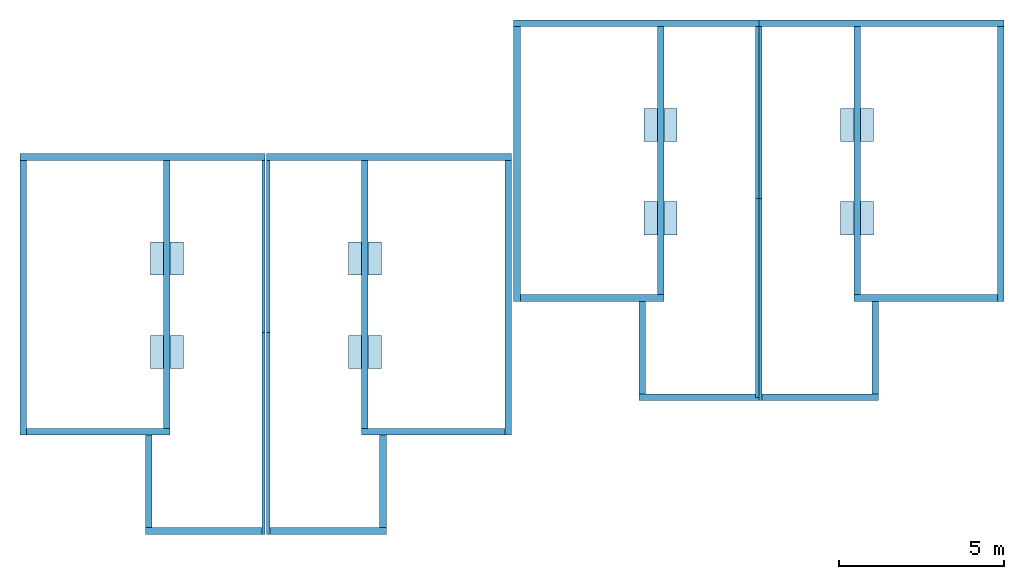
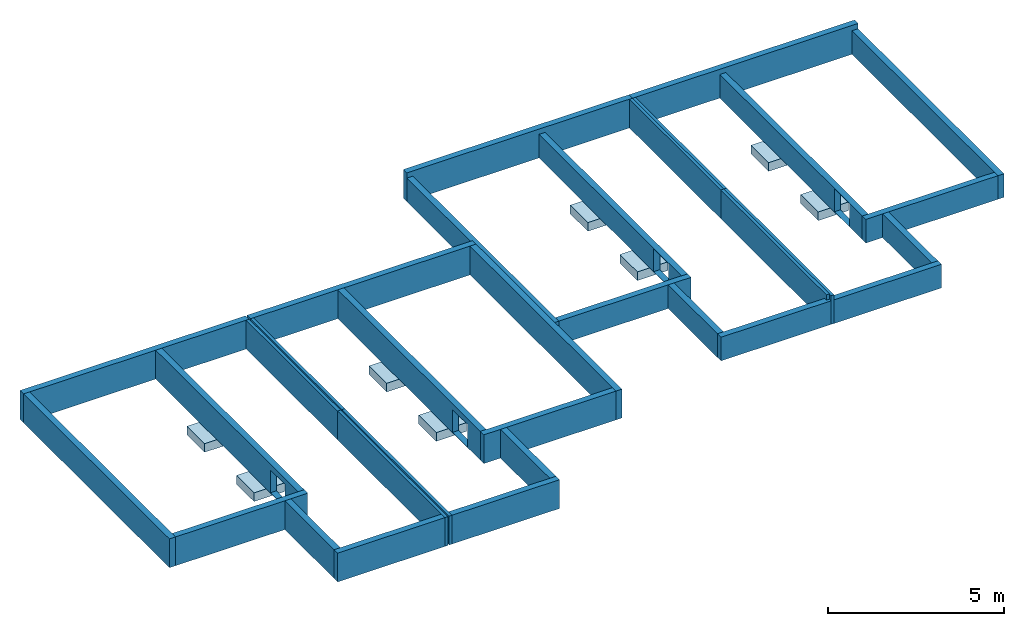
# One storey: 32 walls, 8 slabs, 4 openings.
"""IFC2X3 building model written with IfcOpenShell, lengths in metres."""

import ifcopenshell
import ifcopenshell.guid

model = None  # the IFC model being written
_history = None  # IfcOwnerHistory: only IFC2X3 demands one
_inside = {}  # id of a spatial element -> (the spatial element, [elements in it])
_under = {}  # id of a project, library or spatial element -> (it, [spatial elements below it])
_declared = {}  # id of a project -> (the project, [libraries it declares])
_typed = {}  # id of a type object -> (the type object, [elements of that type])
_made_of = {}  # id of a material, layer set ... -> (it, [elements and type objects made of it])


def new_model(schema):
    """Start an empty IFC model of exactly this schema.

    Asked for "IFC4X3", IfcOpenShell would pick the latest addendum, in which some entities
    have other attributes; the version numbers below select the first issue.
    IFC2X3 requires an IfcOwnerHistory on every rooted entity: one is made here for all.
    """
    global model, _history
    if schema == "IFC4X3":
        model = ifcopenshell.file(schema_version=(4, 3, 0, 0))
    else:
        model = ifcopenshell.file(schema=schema)
    _inside.clear()
    _under.clear()
    _declared.clear()
    _typed.clear()
    _made_of.clear()
    _history = None
    if model.schema == "IFC2X3":
        org = make("IfcOrganization", Name="unknown")
        user = make(
            "IfcPersonAndOrganization",
            ThePerson=make("IfcPerson", FamilyName="unknown"),
            TheOrganization=org,
        )
        app = make(
            "IfcApplication",
            ApplicationDeveloper=org,
            Version="unknown",
            ApplicationFullName="unknown",
            ApplicationIdentifier="unknown",
        )
        _history = make(
            "IfcOwnerHistory",
            OwningUser=user,
            OwningApplication=app,
            ChangeAction="ADDED",
            CreationDate=0,
        )
    return model


def make(cls, **values):
    """One entity of the class cls with the attributes given. An attribute that is None is left unset."""
    return model.create_entity(
        cls, **{name: value for name, value in values.items() if value is not None}
    )


def entity(cls, *values):
    """Any entity or typed value of the class cls, its attributes in the order of the schema. None: left unset."""
    e = model.create_entity(cls)
    for i, value in enumerate(values):
        if value is not None:
            e[i] = value
    return e


def rooted(cls, **values):
    """An entity with a GlobalId (a new one), such as an element, a storey or a relation."""
    return make(cls, GlobalId=ifcopenshell.guid.new(), OwnerHistory=_history, **values)


def si_unit(unit_type, name, prefix=None):
    """IfcSIUnit, for example si_unit("LENGTHUNIT", "METRE", prefix="MILLI")."""
    return make("IfcSIUnit", UnitType=unit_type, Prefix=prefix, Name=name)


def converted_unit(unit_type, name, factor, base, dimensions=None, offset=None):
    """IfcConversionBasedUnit, such as the inch: factor (a typed value) times the base unit."""
    return make(
        "IfcConversionBasedUnit"
        if offset is None
        else "IfcConversionBasedUnitWithOffset",
        ConversionOffset=offset,
        Dimensions=None
        if dimensions is None
        else entity("IfcDimensionalExponents", *dimensions),
        UnitType=unit_type,
        Name=name,
        ConversionFactor=make(
            "IfcMeasureWithUnit", ValueComponent=factor, UnitComponent=base
        ),
    )


def derived_unit(unit_type, elements):
    """IfcDerivedUnit: a product of units, each with its exponent."""
    return make(
        "IfcDerivedUnit",
        Elements=[
            make("IfcDerivedUnitElement", Unit=unit, Exponent=power)
            for unit, power in elements
        ],
        UnitType=unit_type,
    )


def assignment(units):
    """IfcUnitAssignment: the units of a project."""
    return None if units is None else make("IfcUnitAssignment", Units=units)


def point(xyz):
    """IfcCartesianPoint."""
    return None if xyz is None else make("IfcCartesianPoint", Coordinates=xyz)


def direction(xyz):
    """IfcDirection."""
    return None if xyz is None else make("IfcDirection", DirectionRatios=xyz)


def frame(location, z_axis=None, x_axis=None):
    """IfcAxis2Placement3D, a coordinate frame: its origin and axes. An axis left out is left unset."""
    return make(
        "IfcAxis2Placement3D",
        Location=point(location),
        Axis=direction(z_axis),
        RefDirection=direction(x_axis),
    )


def frame_2d(location, x_axis=None):
    """IfcAxis2Placement2D, a coordinate frame in the plane: its origin and x axis."""
    return make(
        "IfcAxis2Placement2D", Location=point(location), RefDirection=direction(x_axis)
    )


def origin():
    """The frame at (0, 0, 0) with its axes left unset."""
    return frame((0.0, 0.0, 0.0))


def place(relative_to, where):
    """IfcLocalPlacement: puts the frame where relative to a parent placement (None: the world)."""
    return make(
        "IfcLocalPlacement", PlacementRelTo=relative_to, RelativePlacement=where
    )


def context(
    kind, dimensions, precision=None, world=None, true_north=None, identifier=None
):
    """IfcGeometricRepresentationContext, for example the 3D "Model" context."""
    return make(
        "IfcGeometricRepresentationContext",
        ContextIdentifier=identifier,
        ContextType=kind,
        CoordinateSpaceDimension=dimensions,
        Precision=precision,
        WorldCoordinateSystem=world,
        TrueNorth=true_north,
    )


def subcontext(parent, identifier, kind, view, scale=None):
    """IfcGeometricRepresentationSubContext, for example "Body" below "Model"."""
    return make(
        "IfcGeometricRepresentationSubContext",
        ContextIdentifier=identifier,
        ContextType=kind,
        ParentContext=parent,
        TargetScale=scale,
        TargetView=view,
    )


def project(units=None, contexts=None):
    """IfcProject with its units and contexts."""
    return rooted(
        "IfcProject",
        Name="project",
        RepresentationContexts=contexts,
        UnitsInContext=assignment(units),
    )


def spatial(cls, under=None, at=None, **own):
    """A site, building, storey or space (cls), placed at a placement, below another one or the project."""
    s = rooted(cls, ObjectPlacement=at, **own)
    if under is not None:
        _under.setdefault(under.id(), (under, []))[1].append(s)
    return s


def polyline(points):
    """IfcPolyline through the points."""
    return make("IfcPolyline", Points=[point(p) for p in points])


def profile(cls, at=None, kind="AREA", **sizes):
    """A parametric profile (cls). Its sizes go by their IFC names, for example OverallWidth=200.0."""
    return make(cls, ProfileType=kind, Position=at, **sizes)


def rectangle(**sizes):
    """IfcRectangleProfileDef."""
    return profile("IfcRectangleProfileDef", **sizes)


def extrude(swept, where, along, depth):
    """IfcExtrudedAreaSolid: the profile swept, set in the frame where, extruded along a direction by depth."""
    return make(
        "IfcExtrudedAreaSolid",
        SweptArea=swept,
        Position=where,
        ExtrudedDirection=direction(along),
        Depth=depth,
    )


def clip(a, b, op="DIFFERENCE"):
    """IfcBooleanClippingResult: the solid a cut by the half space b."""
    return make(
        "IfcBooleanClippingResult", Operator=op, FirstOperand=a, SecondOperand=b
    )


def bounded_halfspace(plane, agree, where, boundary):
    """IfcPolygonalBoundedHalfSpace: a half space limited to a polygon's prism."""
    return make(
        "IfcPolygonalBoundedHalfSpace",
        BaseSurface=make("IfcPlane", Position=plane),
        AgreementFlag=agree,
        Position=where,
        PolygonalBoundary=boundary,
    )


def shape(context_of_items, identifier, shape_type, items):
    """IfcShapeRepresentation: the items that make up one representation, for example the "Body"."""
    return make(
        "IfcShapeRepresentation",
        ContextOfItems=context_of_items,
        RepresentationIdentifier=identifier,
        RepresentationType=shape_type,
        Items=items,
    )


def material(Name=None, Category=None):
    """IfcMaterial."""
    return make("IfcMaterial", Name=Name, Category=Category)


def layer(
    of_material, thickness, ventilated=None, Name=None, Category=None, Priority=None
):
    """IfcMaterialLayer: one layer of a wall or slab, of a material (None: an air gap)."""
    return make(
        "IfcMaterialLayer",
        Material=of_material,
        LayerThickness=thickness,
        IsVentilated=ventilated,
        Name=Name,
        Category=Category,
        Priority=Priority,
    )


def layer_set(layers, Name=None):
    """IfcMaterialLayerSet."""
    return make("IfcMaterialLayerSet", MaterialLayers=layers, LayerSetName=Name)


def layer_usage(for_layer_set, set_direction, sense, offset, extent=None):
    """IfcMaterialLayerSetUsage: how a layer set lies in its element."""
    return make(
        "IfcMaterialLayerSetUsage",
        ForLayerSet=for_layer_set,
        LayerSetDirection=set_direction,
        DirectionSense=sense,
        OffsetFromReferenceLine=offset,
        ReferenceExtent=extent,
    )


def made_of(thing, what):
    """Note that an element or type object is made of a material, layer set ...; save() writes the relation."""
    if what is not None:
        _made_of.setdefault(what.id(), (what, []))[1].append(thing)
    return thing


def type_object(cls, material=None, **own):
    """A type object (cls), such as IfcWallType, which elements share."""
    return made_of(rooted(cls, **own), material)


def element(
    cls,
    number,
    at=None,
    inside=None,
    cuts=None,
    type_object=None,
    material=None,
    context=None,
    identifier="Body",
    shape_type=None,
    held_by="IfcProductDefinitionShape",
    body=None,
    shapes=None,
    **own,
):
    """One element of the class cls, such as IfcWall. Its Tag is "e" and its number.

    at: its placement. inside: the storey or other place that contains it. cuts: it is an
    opening in that element (IfcRelVoidsElement). A single representation is given by context,
    identifier, shape_type and body (its items); several are given by shapes. held_by: the class
    of the entity that holds the representations. save() writes the other relations.
    """
    e = rooted(cls, Tag="e%d" % number, ObjectPlacement=at, **own)
    if body is not None:
        shapes = [shape(context, identifier, shape_type, body)]
    if shapes is not None:
        e.Representation = make(held_by, Representations=shapes)
    if inside is not None:
        _inside.setdefault(inside.id(), (inside, []))[1].append(e)
    if cuts is not None:
        rooted(
            "IfcRelVoidsElement", RelatingBuildingElement=cuts, RelatedOpeningElement=e
        )
    if type_object is not None:
        _typed.setdefault(type_object.id(), (type_object, []))[1].append(e)
    return made_of(e, material)


def aggregate(whole, parts):
    """IfcRelAggregates: a whole, such as a stair, and the parts it consists of."""
    return rooted("IfcRelAggregates", RelatingObject=whole, RelatedObjects=parts)


def save(model, path):
    """Write the relations noted so far, then the file.

    IfcRelAggregates (storeys below a building ...), IfcRelContainedInSpatialStructure (elements
    in a storey), IfcRelDefinesByType, IfcRelAssociatesMaterial and IfcRelDeclares: one each for
    every whole, place, type object, material and project.
    """
    for whole, parts in _under.values():
        aggregate(whole, parts)
    for where, things in _inside.values():
        rooted(
            "IfcRelContainedInSpatialStructure",
            RelatedElements=things,
            RelatingStructure=where,
        )
    for kind, things in _typed.values():
        rooted("IfcRelDefinesByType", RelatedObjects=things, RelatingType=kind)
    for what, things in _made_of.values():
        rooted("IfcRelAssociatesMaterial", RelatedObjects=things, RelatingMaterial=what)
    for by, libraries in _declared.values():
        rooted("IfcRelDeclares", RelatingContext=by, RelatedDefinitions=libraries)
    model.write(path)


model = new_model("IFC2X3")

# Units and contexts
model_context = context("Model", 3, precision=1e-05, world=origin(), true_north=direction((6.12303176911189e-17, 1.0)))
context_of_model = context(None, 3, precision=1e-05, world=origin(), true_north=direction((6.12303176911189e-17, 1.0)))
body_context = subcontext(model_context, "Body", "Model", "MODEL_VIEW")
ifc_project = project(units=[si_unit("LENGTHUNIT", "METRE"), si_unit("AREAUNIT", "SQUARE_METRE"), si_unit("VOLUMEUNIT", "CUBIC_METRE"), converted_unit("PLANEANGLEUNIT", "DEGREE", entity("IfcRatioMeasure", 0.0174532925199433), si_unit("PLANEANGLEUNIT", "RADIAN"), dimensions=[0, 0, 0, 0, 0, 0, 0]), si_unit("MASSUNIT", "GRAM", prefix="KILO"), si_unit("TIMEUNIT", "SECOND"), si_unit("FREQUENCYUNIT", "HERTZ"), si_unit("THERMODYNAMICTEMPERATUREUNIT", "DEGREE_CELSIUS"), derived_unit("THERMALTRANSMITTANCEUNIT", [(si_unit("MASSUNIT", "GRAM", prefix="KILO"), 1), (si_unit("THERMODYNAMICTEMPERATUREUNIT", "KELVIN"), -1), (si_unit("TIMEUNIT", "SECOND"), -3)]), derived_unit("VOLUMETRICFLOWRATEUNIT", [(si_unit("LENGTHUNIT", "METRE"), 3), (si_unit("TIMEUNIT", "SECOND"), -1)]), si_unit("ELECTRICCURRENTUNIT", "AMPERE"), si_unit("ELECTRICVOLTAGEUNIT", "VOLT"), si_unit("POWERUNIT", "WATT"), si_unit("FORCEUNIT", "NEWTON", prefix="KILO"), si_unit("ILLUMINANCEUNIT", "LUX"), si_unit("LUMINOUSFLUXUNIT", "LUMEN"), si_unit("LUMINOUSINTENSITYUNIT", "CANDELA"), si_unit("PRESSUREUNIT", "PASCAL")], contexts=[model_context, context_of_model])

# Site, building, storey
site_placement = place(None, origin())
site = spatial("IfcSite", under=ifc_project, at=site_placement, Name="Surface", CompositionType="ELEMENT")
building_placement = place(site_placement, origin())
building = spatial("IfcBuilding", under=site, at=building_placement, CompositionType="ELEMENT")
storey_placement = place(building_placement, frame((0.0, 0.0, -0.8)))
storey = spatial("IfcBuildingStorey", under=building, at=storey_placement, Name="vs", CompositionType="ELEMENT", Elevation=-0.8)

# Slabs
ifc_material_1 = material(Name="Béton - Béton coulé sur place")
slab_1_placement = place(storey_placement, origin())
element("IfcSlab", 1, at=slab_1_placement, inside=storey, material=ifc_material_1, Name="Base rectangulaire:1.00 x 1.00 x .30", ObjectType="Base rectangulaire:1.00 x 1.00 x .30", PredefinedType="FLOOR", context=body_context, shape_type="SweptSolid", body=[
    extrude(rectangle(XDim=0.999999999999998, YDim=0.999999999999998, at=frame_2d((8.68749516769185e-15, -8.68749516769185e-15), x_axis=(1.0, 0.0))), frame((86.6967857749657, 89.2775239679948, -0.5), z_axis=(0.0, 0.0, 1.0), x_axis=(-1.0, 0.0, 0.0)), (0.0, 0.0, 1.0), 0.3),
    extrude(rectangle(XDim=0.999999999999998, YDim=0.999999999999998, at=frame_2d((8.68749516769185e-15, -8.68749516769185e-15), x_axis=(1.0, 0.0))), frame((86.6967857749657, 89.2775239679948, -0.5), z_axis=(0.0, 0.0, 1.0), x_axis=(-1.0, 0.0, 0.0)), (0.0, 0.0, 1.0), 0.3),
])
slab_2_placement = place(storey_placement, origin())
element("IfcSlab", 2, at=slab_2_placement, inside=storey, material=ifc_material_1, Name="Base rectangulaire:1.00 x 1.00 x .30", ObjectType="Base rectangulaire:1.00 x 1.00 x .30", PredefinedType="FLOOR", context=body_context, shape_type="SweptSolid", body=[
    extrude(rectangle(XDim=0.999999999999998, YDim=0.999999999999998, at=frame_2d((8.68749516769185e-15, -8.68749516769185e-15), x_axis=(1.0, 0.0))), frame((71.8246263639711, 85.2377566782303, -0.5), z_axis=(0.0, 0.0, 1.0), x_axis=(-1.0, 0.0, 0.0)), (0.0, 0.0, 1.0), 0.3),
    extrude(rectangle(XDim=0.999999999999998, YDim=0.999999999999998, at=frame_2d((8.68749516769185e-15, -8.68749516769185e-15), x_axis=(1.0, 0.0))), frame((71.8246263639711, 85.2377566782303, -0.5), z_axis=(0.0, 0.0, 1.0), x_axis=(-1.0, 0.0, 0.0)), (0.0, 0.0, 1.0), 0.3),
])
slab_3_placement = place(storey_placement, origin())
element("IfcSlab", 3, at=slab_3_placement, inside=storey, material=ifc_material_1, Name="Base rectangulaire:1.00 x 1.00 x .30", ObjectType="Base rectangulaire:1.00 x 1.00 x .30", PredefinedType="FLOOR", context=body_context, shape_type="SweptSolid", body=[
    extrude(rectangle(XDim=0.999999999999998, YDim=0.999999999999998, at=frame_2d((-8.68749516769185e-15, 2.6853519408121e-13), x_axis=(1.0, 0.0))), frame((65.8446263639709, 85.2377566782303, -0.5), z_axis=(0.0, 0.0, 1.0), x_axis=(0.0, -1.0, 0.0)), (0.0, 0.0, 1.0), 0.3),
    extrude(rectangle(XDim=0.999999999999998, YDim=0.999999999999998, at=frame_2d((-8.68749516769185e-15, 2.6853519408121e-13), x_axis=(1.0, 0.0))), frame((65.8446263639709, 85.2377566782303, -0.5), z_axis=(0.0, 0.0, 1.0), x_axis=(0.0, -1.0, 0.0)), (0.0, 0.0, 1.0), 0.3),
])
slab_4_placement = place(storey_placement, origin())
element("IfcSlab", 4, at=slab_4_placement, inside=storey, material=ifc_material_1, Name="Base rectangulaire:1.00 x 1.00 x .30", ObjectType="Base rectangulaire:1.00 x 1.00 x .30", PredefinedType="FLOOR", context=body_context, shape_type="SweptSolid", body=[
    extrude(rectangle(XDim=0.999999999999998, YDim=0.999999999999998, at=frame_2d((8.68749516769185e-15, 8.68749516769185e-15), x_axis=(1.0, 0.0))), frame((86.6967857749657, 86.4575239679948, -0.5), z_axis=(0.0, 0.0, 1.0), x_axis=(-1.0, 0.0, 0.0)), (0.0, 0.0, 1.0), 0.3),
    extrude(rectangle(XDim=0.999999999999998, YDim=0.999999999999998, at=frame_2d((8.68749516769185e-15, 8.68749516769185e-15), x_axis=(1.0, 0.0))), frame((86.6967857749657, 86.4575239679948, -0.5), z_axis=(0.0, 0.0, 1.0), x_axis=(-1.0, 0.0, 0.0)), (0.0, 0.0, 1.0), 0.3),
])
slab_5_placement = place(storey_placement, origin())
element("IfcSlab", 5, at=slab_5_placement, inside=storey, material=ifc_material_1, Name="Base rectangulaire:1.00 x 1.00 x .30", ObjectType="Base rectangulaire:1.00 x 1.00 x .30", PredefinedType="FLOOR", context=body_context, shape_type="SweptSolid", body=[
    extrude(rectangle(XDim=0.999999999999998, YDim=0.999999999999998, at=frame_2d((8.68749516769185e-15, -8.68749516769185e-15), x_axis=(1.0, 0.0))), frame((71.8246263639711, 82.4177566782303, -0.5), z_axis=(0.0, 0.0, 1.0), x_axis=(-1.0, 0.0, 0.0)), (0.0, 0.0, 1.0), 0.3),
    extrude(rectangle(XDim=0.999999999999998, YDim=0.999999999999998, at=frame_2d((8.68749516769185e-15, -8.68749516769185e-15), x_axis=(1.0, 0.0))), frame((71.8246263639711, 82.4177566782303, -0.5), z_axis=(0.0, 0.0, 1.0), x_axis=(-1.0, 0.0, 0.0)), (0.0, 0.0, 1.0), 0.3),
])
slab_6_placement = place(storey_placement, origin())
element("IfcSlab", 6, at=slab_6_placement, inside=storey, material=ifc_material_1, Name="Base rectangulaire:1.00 x 1.00 x .30", ObjectType="Base rectangulaire:1.00 x 1.00 x .30", PredefinedType="FLOOR", context=body_context, shape_type="SweptSolid", body=[
    extrude(rectangle(XDim=0.999999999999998, YDim=0.999999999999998, at=frame_2d((8.68749516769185e-15, 2.6853519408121e-13), x_axis=(1.0, 0.0))), frame((65.8446263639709, 82.4177566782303, -0.5), z_axis=(0.0, 0.0, 1.0), x_axis=(0.0, -1.0, 0.0)), (0.0, 0.0, 1.0), 0.3),
    extrude(rectangle(XDim=0.999999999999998, YDim=0.999999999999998, at=frame_2d((8.68749516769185e-15, 2.6853519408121e-13), x_axis=(1.0, 0.0))), frame((65.8446263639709, 82.4177566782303, -0.5), z_axis=(0.0, 0.0, 1.0), x_axis=(0.0, -1.0, 0.0)), (0.0, 0.0, 1.0), 0.3),
])
slab_7_placement = place(storey_placement, origin())
element("IfcSlab", 7, at=slab_7_placement, inside=storey, material=ifc_material_1, Name="Base rectangulaire:1.00 x 1.00 x .30", ObjectType="Base rectangulaire:1.00 x 1.00 x .30", PredefinedType="FLOOR", context=body_context, shape_type="SweptSolid", body=[
    extrude(rectangle(XDim=0.999999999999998, YDim=0.999999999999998, at=frame_2d((8.68749516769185e-15, 8.68749516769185e-15), x_axis=(1.0, 0.0))), frame((80.7610189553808, 89.2775239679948, -0.5), z_axis=(0.0, 0.0, 1.0), x_axis=(0.0, -1.0, 0.0)), (0.0, 0.0, 1.0), 0.3),
    extrude(rectangle(XDim=0.999999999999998, YDim=0.999999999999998, at=frame_2d((8.68749516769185e-15, 8.68749516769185e-15), x_axis=(1.0, 0.0))), frame((80.7610189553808, 89.2775239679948, -0.5), z_axis=(0.0, 0.0, 1.0), x_axis=(0.0, -1.0, 0.0)), (0.0, 0.0, 1.0), 0.3),
])
slab_8_placement = place(storey_placement, origin())
element("IfcSlab", 8, at=slab_8_placement, inside=storey, material=ifc_material_1, Name="Base rectangulaire:1.00 x 1.00 x .30", ObjectType="Base rectangulaire:1.00 x 1.00 x .30", PredefinedType="FLOOR", context=body_context, shape_type="SweptSolid", body=[
    extrude(rectangle(XDim=0.999999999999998, YDim=0.999999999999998, at=frame_2d((8.68749516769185e-15, 8.68749516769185e-15), x_axis=(1.0, 0.0))), frame((80.7610189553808, 86.4575239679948, -0.5), z_axis=(0.0, 0.0, 1.0), x_axis=(0.0, -1.0, 0.0)), (0.0, 0.0, 1.0), 0.3),
    extrude(rectangle(XDim=0.999999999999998, YDim=0.999999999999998, at=frame_2d((8.68749516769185e-15, 8.68749516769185e-15), x_axis=(1.0, 0.0))), frame((80.7610189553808, 86.4575239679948, -0.5), z_axis=(0.0, 0.0, 1.0), x_axis=(0.0, -1.0, 0.0)), (0.0, 0.0, 1.0), 0.3),
])

# Walls
ifc_material_2 = material(Name="Parpaing")
ifc_layer_1 = layer(ifc_material_2, 0.2)
ifc_layer_set_1 = layer_set([ifc_layer_1], Name="Mur de base:Ext. Parpaing 20")
ifc_layer_usage_1 = layer_usage(ifc_layer_set_1, "AXIS2", "NEGATIVE", 0.1)
wall_type_1 = type_object("IfcWallType", Name="Mur de base:Ext. Parpaing 20", PredefinedType="STANDARD", material=ifc_layer_set_1)
wall_1_placement = place(storey_placement, frame((83.7267857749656, 92.3475239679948, -0.2)))
element("IfcWallStandardCase", 9, at=wall_1_placement, inside=storey, type_object=wall_type_1, material=ifc_layer_usage_1, Name="Mur de base:Ext. Parpaing 20", ObjectType="Mur de base:Ext. Parpaing 20", context=body_context, shape_type="SweptSolid", body=[
    extrude(rectangle(XDim=7.40826294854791, YDim=0.199999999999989, at=frame_2d((3.70413147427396, 3.51801920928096e-15), x_axis=(-1.0, 0.0))), origin(), (0.0, 0.0, 1.0), 1.0),
])
ifc_layer_usage_2 = layer_usage(ifc_layer_set_1, "AXIS2", "NEGATIVE", 0.1)
wall_2_placement = place(storey_placement, frame((91.0350487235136, 92.2475239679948, -0.2), z_axis=(0.0, 0.0, 1.0), x_axis=(0.0, -1.0, 0.0)))
element("IfcWallStandardCase", 10, at=wall_2_placement, inside=storey, type_object=wall_type_1, material=ifc_layer_usage_2, Name="Mur de base:Ext. Parpaing 20", ObjectType="Mur de base:Ext. Parpaing 20", context=body_context, shape_type="SweptSolid", body=[
    extrude(rectangle(XDim=8.29999999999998, YDim=0.199999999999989, at=frame_2d((4.14999999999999, 0.0), x_axis=(-1.0, 0.0))), origin(), (0.0, 0.0, 1.0), 0.82),
])
ifc_layer_usage_3 = layer_usage(ifc_layer_set_1, "AXIS2", "NEGATIVE", 0.1)
wall_3_placement = place(storey_placement, frame((90.9350487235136, 84.0475239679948, -0.2), z_axis=(0.0, 0.0, 1.0), x_axis=(-1.0, 0.0, 0.0)))
element("IfcWallStandardCase", 11, at=wall_3_placement, inside=storey, type_object=wall_type_1, material=ifc_layer_usage_3, Name="Mur de base:Ext. Parpaing 20", ObjectType="Mur de base:Ext. Parpaing 20", context=body_context, shape_type="Clipping", body=[
    clip(extrude(rectangle(XDim=4.33826294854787, YDim=0.199999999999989, at=frame_2d((2.16913147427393, 3.19883008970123e-15), x_axis=(-1.0, 0.0))), origin(), (0.0, 0.0, 1.0), 0.82), bounded_halfspace(frame((3.78826294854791, -0.0999999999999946, 0.82), z_axis=(0.0, 0.0, -1.0), x_axis=(-1.0, 0.0, 0.0)), True, frame((3.78826294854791, -0.0999999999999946, 0.82)), polyline([(0.0, 0.0), (0.349999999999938, 0.0), (0.549999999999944, 0.0), (0.549999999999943, 0.200000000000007), (0.0, 0.200000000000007), (0.0, 0.0)]))),
])
ifc_layer_usage_4 = layer_usage(ifc_layer_set_1, "AXIS2", "NEGATIVE", 0.1)
wall_4_placement = place(storey_placement, frame((83.8267857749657, 81.0475239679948, -0.2)))
element("IfcWallStandardCase", 12, at=wall_4_placement, inside=storey, type_object=wall_type_1, material=ifc_layer_usage_4, Name="Mur de base:Ext. Parpaing 20", ObjectType="Mur de base:Ext. Parpaing 20", context=body_context, shape_type="SweptSolid", body=[
    extrude(rectangle(XDim=3.51999999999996, YDim=0.199999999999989, at=frame_2d((1.75999999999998, 0.0), x_axis=(-1.0, 0.0))), origin(), (0.0, 0.0, 1.0), 0.82),
])
ifc_layer_usage_5 = layer_usage(ifc_layer_set_1, "AXIS2", "NEGATIVE", 0.1)
wall_5_placement = place(storey_placement, frame((87.2467857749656, 81.1475239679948, -0.2), z_axis=(0.0, 0.0, 1.0), x_axis=(0.0, 1.0, 0.0)))
element("IfcWallStandardCase", 13, at=wall_5_placement, inside=storey, type_object=wall_type_1, material=ifc_layer_usage_5, Name="Mur de base:Ext. Parpaing 20", ObjectType="Mur de base:Ext. Parpaing 20", context=body_context, shape_type="SweptSolid", body=[
    extrude(rectangle(XDim=2.80000000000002, YDim=0.199999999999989, at=frame_2d((1.40000000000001, 0.0), x_axis=(-1.0, 0.0))), origin(), (0.0, 0.0, 1.0), 0.82),
])

# Wall, opening
ifc_layer_usage_6 = layer_usage(ifc_layer_set_1, "AXIS2", "NEGATIVE", 0.1)
wall_6_placement = place(storey_placement, frame((86.6967857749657, 84.1475239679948, -0.2), z_axis=(0.0, 0.0, 1.0), x_axis=(0.0, 1.0, 0.0)))
wall_6 = element("IfcWallStandardCase", 14, at=wall_6_placement, inside=storey, type_object=wall_type_1, material=ifc_layer_usage_6, Name="Mur de base:Ext. Parpaing 20", ObjectType="Mur de base:Ext. Parpaing 20", context=body_context, shape_type="Clipping", body=[
    clip(extrude(rectangle(XDim=8.09999999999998, YDim=0.199999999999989, at=frame_2d((4.04999999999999, 0.0), x_axis=(-1.0, 0.0))), origin(), (0.0, 0.0, 1.0), 0.82), bounded_halfspace(frame((0.0, -0.100000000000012, 0.82), z_axis=(0.0, 0.0, -1.0), x_axis=(0.0, -1.0, 0.0)), True, frame((0.0, -0.100000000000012, 0.82)), polyline([(0.0, 0.0), (8.07999999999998, 0.0), (8.07999999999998, 0.200000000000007), (0.0, 0.200000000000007), (0.0, 0.0)]))),
])
opening_1_placement = place(wall_6_placement, origin())
element("IfcOpeningElement", 15, at=opening_1_placement, cuts=wall_6, Name="Mur de base:Ext. Parpaing 20", ObjectType="Opening", context=body_context, shape_type="SweptSolid", body=[
    extrude(rectangle(XDim=0.793145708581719, YDim=0.840999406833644, at=frame_2d((0.0, -8.65973959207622e-15), x_axis=(1.0, 0.0))), frame((1.15884276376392, -0.0999999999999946, 0.403427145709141), z_axis=(0.0, 1.0, 0.0), x_axis=(0.0, 0.0, -1.0)), (0.0, 0.0, 1.0), 0.199999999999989),
])

# Walls
ifc_layer_usage_7 = layer_usage(ifc_layer_set_1, "AXIS2", "NEGATIVE", 0.1)
wall_7_placement = place(storey_placement, frame((68.8546263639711, 88.3077566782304, -0.2)))
element("IfcWallStandardCase", 16, at=wall_7_placement, inside=storey, type_object=wall_type_1, material=ifc_layer_usage_7, Name="Mur de base:Ext. Parpaing 20", ObjectType="Mur de base:Ext. Parpaing 20", context=body_context, shape_type="SweptSolid", body=[
    extrude(rectangle(XDim=7.40826294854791, YDim=0.199999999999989, at=frame_2d((3.70413147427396, 3.51801920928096e-15), x_axis=(-1.0, 0.0))), origin(), (0.0, 0.0, 1.0), 1.0),
])
ifc_layer_usage_8 = layer_usage(ifc_layer_set_1, "AXIS2", "NEGATIVE", 0.1)
wall_8_placement = place(storey_placement, frame((76.162889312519, 88.2077566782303, -0.2), z_axis=(0.0, 0.0, 1.0), x_axis=(0.0, -1.0, 0.0)))
element("IfcWallStandardCase", 17, at=wall_8_placement, inside=storey, type_object=wall_type_1, material=ifc_layer_usage_8, Name="Mur de base:Ext. Parpaing 20", ObjectType="Mur de base:Ext. Parpaing 20", context=body_context, shape_type="SweptSolid", body=[
    extrude(rectangle(XDim=8.29999999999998, YDim=0.200000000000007, at=frame_2d((4.14999999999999, 0.0), x_axis=(-1.0, 0.0))), origin(), (0.0, 0.0, 1.0), 1.0),
])
ifc_layer_usage_9 = layer_usage(ifc_layer_set_1, "AXIS2", "NEGATIVE", 0.1)
wall_9_placement = place(storey_placement, frame((76.062889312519, 80.0077566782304, -0.2), z_axis=(0.0, 0.0, 1.0), x_axis=(-1.0, 0.0, 0.0)))
element("IfcWallStandardCase", 18, at=wall_9_placement, inside=storey, type_object=wall_type_1, material=ifc_layer_usage_9, Name="Mur de base:Ext. Parpaing 20", ObjectType="Mur de base:Ext. Parpaing 20", context=body_context, shape_type="SweptSolid", body=[
    extrude(rectangle(XDim=4.33826294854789, YDim=0.199999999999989, at=frame_2d((2.16913147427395, 3.19883008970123e-15), x_axis=(-1.0, 0.0))), origin(), (0.0, 0.0, 1.0), 1.0),
])
ifc_layer_usage_10 = layer_usage(ifc_layer_set_1, "AXIS2", "NEGATIVE", 0.1)
wall_10_placement = place(storey_placement, frame((68.9546263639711, 77.0077566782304, -0.2)))
element("IfcWallStandardCase", 19, at=wall_10_placement, inside=storey, type_object=wall_type_1, material=ifc_layer_usage_10, Name="Mur de base:Ext. Parpaing 20", ObjectType="Mur de base:Ext. Parpaing 20", context=body_context, shape_type="SweptSolid", body=[
    extrude(rectangle(XDim=3.51999999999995, YDim=0.200000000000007, at=frame_2d((1.75999999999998, 0.0), x_axis=(-1.0, 0.0))), origin(), (0.0, 0.0, 1.0), 1.0),
])
ifc_layer_usage_11 = layer_usage(ifc_layer_set_1, "AXIS2", "NEGATIVE", 0.1)
wall_11_placement = place(storey_placement, frame((72.3746263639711, 77.1077566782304, -0.2), z_axis=(0.0, 0.0, 1.0), x_axis=(0.0, 1.0, 0.0)))
element("IfcWallStandardCase", 20, at=wall_11_placement, inside=storey, type_object=wall_type_1, material=ifc_layer_usage_11, Name="Mur de base:Ext. Parpaing 20", ObjectType="Mur de base:Ext. Parpaing 20", context=body_context, shape_type="SweptSolid", body=[
    extrude(rectangle(XDim=2.80000000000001, YDim=0.200000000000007, at=frame_2d((1.40000000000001, 0.0), x_axis=(-1.0, 0.0))), origin(), (0.0, 0.0, 1.0), 1.0),
])

# Wall, opening
ifc_layer_usage_12 = layer_usage(ifc_layer_set_1, "AXIS2", "NEGATIVE", 0.1)
wall_12_placement = place(storey_placement, frame((71.8246263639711, 80.1077566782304, -0.2), z_axis=(0.0, 0.0, 1.0), x_axis=(0.0, 1.0, 0.0)))
wall_12 = element("IfcWallStandardCase", 21, at=wall_12_placement, inside=storey, type_object=wall_type_1, material=ifc_layer_usage_12, Name="Mur de base:Ext. Parpaing 20", ObjectType="Mur de base:Ext. Parpaing 20", context=body_context, shape_type="SweptSolid", body=[
    extrude(rectangle(XDim=8.09999999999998, YDim=0.200000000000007, at=frame_2d((4.04999999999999, 0.0), x_axis=(-1.0, 0.0))), origin(), (0.0, 0.0, 1.0), 1.0),
])
opening_2_placement = place(wall_12_placement, origin())
element("IfcOpeningElement", 22, at=opening_2_placement, cuts=wall_12, Name="Mur de base:Ext. Parpaing 20", ObjectType="Opening", context=body_context, shape_type="SweptSolid", body=[
    extrude(rectangle(XDim=0.793145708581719, YDim=0.840999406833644, at=frame_2d((0.0, 8.65973959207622e-15), x_axis=(1.0, 0.0))), frame((1.15884276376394, -0.100000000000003, 0.403427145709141), z_axis=(0.0, 1.0, 0.0), x_axis=(0.0, 0.0, -1.0)), (0.0, 0.0, 1.0), 0.200000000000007),
])

# Walls
ifc_layer_usage_13 = layer_usage(ifc_layer_set_1, "AXIS2", "POSITIVE", -0.1)
wall_13_placement = place(storey_placement, frame((68.8146263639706, 88.3077566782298, -0.2), z_axis=(0.0, 0.0, 1.0), x_axis=(-1.0, 0.0, 0.0)))
element("IfcWallStandardCase", 23, at=wall_13_placement, inside=storey, type_object=wall_type_1, material=ifc_layer_usage_13, Name="Mur de base:Ext. Parpaing 20", ObjectType="Mur de base:Ext. Parpaing 20", context=body_context, shape_type="SweptSolid", body=[
    extrude(rectangle(XDim=7.40826294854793, YDim=0.199999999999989, at=frame_2d((3.70413147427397, -1.9220736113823e-15), x_axis=(-1.0, 0.0))), origin(), (0.0, 0.0, 1.0), 1.0),
])
ifc_layer_usage_14 = layer_usage(ifc_layer_set_1, "AXIS2", "POSITIVE", -0.1)
wall_14_placement = place(storey_placement, frame((61.5063634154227, 88.2077566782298, -0.2), z_axis=(0.0, 0.0, 1.0), x_axis=(0.0, -1.0, 0.0)))
element("IfcWallStandardCase", 24, at=wall_14_placement, inside=storey, type_object=wall_type_1, material=ifc_layer_usage_14, Name="Mur de base:Ext. Parpaing 20", ObjectType="Mur de base:Ext. Parpaing 20", context=body_context, shape_type="SweptSolid", body=[
    extrude(rectangle(XDim=8.30000000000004, YDim=0.200000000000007, at=frame_2d((4.15000000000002, 2.99760216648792e-15), x_axis=(-1.0, 0.0))), origin(), (0.0, 0.0, 1.0), 1.0),
])
ifc_layer_usage_15 = layer_usage(ifc_layer_set_1, "AXIS2", "POSITIVE", -0.1)
wall_15_placement = place(storey_placement, frame((61.6063634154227, 80.0077566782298, -0.2)))
element("IfcWallStandardCase", 25, at=wall_15_placement, inside=storey, type_object=wall_type_1, material=ifc_layer_usage_15, Name="Mur de base:Ext. Parpaing 20", ObjectType="Mur de base:Ext. Parpaing 20", context=body_context, shape_type="SweptSolid", body=[
    extrude(rectangle(XDim=4.3382629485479, YDim=0.199999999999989, at=frame_2d((2.16913147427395, -1.52655665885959e-16), x_axis=(-1.0, 0.0))), origin(), (0.0, 0.0, 1.0), 1.0),
])
ifc_layer_usage_16 = layer_usage(ifc_layer_set_1, "AXIS2", "POSITIVE", -0.1)
wall_16_placement = place(storey_placement, frame((68.7146263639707, 77.0077566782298, -0.2), z_axis=(0.0, 0.0, 1.0), x_axis=(-1.0, 0.0, 0.0)))
element("IfcWallStandardCase", 26, at=wall_16_placement, inside=storey, type_object=wall_type_1, material=ifc_layer_usage_16, Name="Mur de base:Ext. Parpaing 20", ObjectType="Mur de base:Ext. Parpaing 20", context=body_context, shape_type="SweptSolid", body=[
    extrude(rectangle(XDim=3.51999999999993, YDim=0.200000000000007, at=frame_2d((1.75999999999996, -2.92821322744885e-15), x_axis=(-1.0, 0.0))), origin(), (0.0, 0.0, 1.0), 1.0),
])
ifc_layer_usage_17 = layer_usage(ifc_layer_set_1, "AXIS2", "POSITIVE", -0.1)
wall_17_placement = place(storey_placement, frame((65.2946263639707, 77.1077566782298, -0.2), z_axis=(0.0, 0.0, 1.0), x_axis=(0.0, 1.0, 0.0)))
element("IfcWallStandardCase", 27, at=wall_17_placement, inside=storey, type_object=wall_type_1, material=ifc_layer_usage_17, Name="Mur de base:Ext. Parpaing 20", ObjectType="Mur de base:Ext. Parpaing 20", context=body_context, shape_type="SweptSolid", body=[
    extrude(rectangle(XDim=2.8, YDim=0.200000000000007, at=frame_2d((1.4, 3.77475828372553e-15), x_axis=(-1.0, 0.0))), origin(), (0.0, 0.0, 1.0), 1.0),
])

# Wall, opening
ifc_layer_usage_18 = layer_usage(ifc_layer_set_1, "AXIS2", "POSITIVE", -0.1)
wall_18_placement = place(storey_placement, frame((65.8446263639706, 80.1077566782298, -0.2), z_axis=(0.0, 0.0, 1.0), x_axis=(0.0, 1.0, 0.0)))
wall_18 = element("IfcWallStandardCase", 28, at=wall_18_placement, inside=storey, type_object=wall_type_1, material=ifc_layer_usage_18, Name="Mur de base:Ext. Parpaing 20", ObjectType="Mur de base:Ext. Parpaing 20", context=body_context, shape_type="SweptSolid", body=[
    extrude(rectangle(XDim=8.10000000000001, YDim=0.200000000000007, at=frame_2d((4.05000000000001, -6.73072708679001e-16), x_axis=(-1.0, 0.0))), origin(), (0.0, 0.0, 1.0), 1.0),
])
opening_3_placement = place(wall_18_placement, origin())
element("IfcOpeningElement", 29, at=opening_3_placement, cuts=wall_18, Name="Mur de base:Ext. Parpaing 20", ObjectType="Opening", context=body_context, shape_type="SweptSolid", body=[
    extrude(rectangle(XDim=0.793145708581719, YDim=0.840999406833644, at=frame_2d((0.0, -8.65973959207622e-15), x_axis=(1.0, 0.0))), frame((1.15884276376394, -0.100000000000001, 0.403427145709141), z_axis=(0.0, 1.0, 0.0), x_axis=(0.0, 0.0, -1.0)), (0.0, 0.0, 1.0), 0.200000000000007),
])

# Walls
ifc_layer_usage_19 = layer_usage(ifc_layer_set_1, "AXIS2", "POSITIVE", -0.1)
wall_19_placement = place(storey_placement, frame((83.7267857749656, 92.3475239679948, -0.2), z_axis=(0.0, 0.0, 1.0), x_axis=(-1.0, 0.0, 0.0)))
element("IfcWallStandardCase", 30, at=wall_19_placement, inside=storey, type_object=wall_type_1, material=ifc_layer_usage_19, Name="Mur de base:Ext. Parpaing 20", ObjectType="Mur de base:Ext. Parpaing 20", context=body_context, shape_type="SweptSolid", body=[
    extrude(rectangle(XDim=7.40402976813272, YDim=0.199999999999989, at=frame_2d((3.70201488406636, -3.51108031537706e-15), x_axis=(-1.0, 0.0))), origin(), (0.0, 0.0, 1.0), 1.0),
])
ifc_layer_usage_20 = layer_usage(ifc_layer_set_1, "AXIS2", "POSITIVE", -0.1)
wall_20_placement = place(storey_placement, frame((76.4227560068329, 92.2475239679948, -0.2), z_axis=(0.0, 0.0, 1.0), x_axis=(0.0, -1.0, 0.0)))
element("IfcWallStandardCase", 31, at=wall_20_placement, inside=storey, type_object=wall_type_1, material=ifc_layer_usage_20, Name="Mur de base:Ext. Parpaing 20", ObjectType="Mur de base:Ext. Parpaing 20", context=body_context, shape_type="SweptSolid", body=[
    extrude(rectangle(XDim=8.30000000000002, YDim=0.200000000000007, at=frame_2d((4.15000000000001, 0.0), x_axis=(-1.0, 0.0))), origin(), (0.0, 0.0, 1.0), 0.82),
])
ifc_layer_usage_21 = layer_usage(ifc_layer_set_1, "AXIS2", "POSITIVE", -0.1)
wall_21_placement = place(storey_placement, frame((76.5227560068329, 84.0475239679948, -0.2)))
element("IfcWallStandardCase", 32, at=wall_21_placement, inside=storey, type_object=wall_type_1, material=ifc_layer_usage_21, Name="Mur de base:Ext. Parpaing 20", ObjectType="Mur de base:Ext. Parpaing 20", context=body_context, shape_type="Clipping", body=[
    clip(extrude(rectangle(XDim=4.33826294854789, YDim=0.199999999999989, at=frame_2d((2.16913147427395, -3.19883008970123e-15), x_axis=(-1.0, 0.0))), origin(), (0.0, 0.0, 1.0), 0.82), bounded_halfspace(frame((3.78826294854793, -0.100000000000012, 0.82), z_axis=(0.0, 0.0, -1.0), x_axis=(0.0, -1.0, 0.0)), True, frame((3.78826294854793, -0.100000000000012, 0.82)), polyline([(0.0, 0.0), (0.549999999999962, 0.0), (0.549999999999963, 0.199999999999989), (0.349999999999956, 0.200000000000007), (0.0, 0.200000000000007), (0.0, 0.0)]))),
])
ifc_layer_usage_22 = layer_usage(ifc_layer_set_1, "AXIS2", "POSITIVE", -0.1)
wall_22_placement = place(storey_placement, frame((83.7267857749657, 81.0475239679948, -0.2), z_axis=(0.0, 0.0, 1.0), x_axis=(-1.0, 0.0, 0.0)))
element("IfcWallStandardCase", 33, at=wall_22_placement, inside=storey, type_object=wall_type_1, material=ifc_layer_usage_22, Name="Mur de base:Ext. Parpaing 20", ObjectType="Mur de base:Ext. Parpaing 20", context=body_context, shape_type="SweptSolid", body=[
    extrude(rectangle(XDim=3.61576681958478, YDim=0.199999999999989, at=frame_2d((1.80788340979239, 0.0), x_axis=(-1.0, 0.0))), origin(), (0.0, 0.0, 1.0), 0.82),
])
ifc_layer_usage_23 = layer_usage(ifc_layer_set_1, "AXIS2", "POSITIVE", -0.1)
wall_23_placement = place(storey_placement, frame((80.2110189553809, 81.1475239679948, -0.2), z_axis=(0.0, 0.0, 1.0), x_axis=(0.0, 1.0, 0.0)))
element("IfcWallStandardCase", 34, at=wall_23_placement, inside=storey, type_object=wall_type_1, material=ifc_layer_usage_23, Name="Mur de base:Ext. Parpaing 20", ObjectType="Mur de base:Ext. Parpaing 20", context=body_context, shape_type="SweptSolid", body=[
    extrude(rectangle(XDim=2.79999999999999, YDim=0.199999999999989, at=frame_2d((1.39999999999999, 0.0), x_axis=(-1.0, 0.0))), origin(), (0.0, 0.0, 1.0), 0.82),
])

# Wall, opening
ifc_layer_usage_24 = layer_usage(ifc_layer_set_1, "AXIS2", "POSITIVE", -0.1)
wall_24_placement = place(storey_placement, frame((80.7610189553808, 84.1475239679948, -0.2), z_axis=(0.0, 0.0, 1.0), x_axis=(0.0, 1.0, 0.0)))
wall_24 = element("IfcWallStandardCase", 35, at=wall_24_placement, inside=storey, type_object=wall_type_1, material=ifc_layer_usage_24, Name="Mur de base:Ext. Parpaing 20", ObjectType="Mur de base:Ext. Parpaing 20", context=body_context, shape_type="Clipping", body=[
    clip(extrude(rectangle(XDim=8.10000000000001, YDim=0.199999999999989, at=frame_2d((4.05000000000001, 0.0), x_axis=(-1.0, 0.0))), origin(), (0.0, 0.0, 1.0), 0.82), bounded_halfspace(frame((0.0, -0.100000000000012, 0.82), z_axis=(0.0, 0.0, -1.0), x_axis=(-1.0, 0.0, 0.0)), True, frame((0.0, -0.100000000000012, 0.82)), polyline([(0.0, 0.0), (8.08, 0.0), (8.08, 0.200000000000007), (0.0, 0.200000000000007), (0.0, 0.0)]))),
])
opening_4_placement = place(wall_24_placement, origin())
element("IfcOpeningElement", 36, at=opening_4_placement, cuts=wall_24, Name="Mur de base:Ext. Parpaing 20", ObjectType="Opening", context=body_context, shape_type="SweptSolid", body=[
    extrude(rectangle(XDim=0.793145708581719, YDim=0.840999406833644, at=frame_2d((0.0, -8.65973959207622e-15), x_axis=(1.0, 0.0))), frame((1.15884276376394, -0.0999999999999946, 0.403427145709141), z_axis=(0.0, 1.0, 0.0), x_axis=(0.0, 0.0, -1.0)), (0.0, 0.0, 1.0), 0.199999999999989),
])

# Walls
ifc_layer_2 = layer(ifc_material_2, 0.1)
ifc_layer_set_2 = layer_set([ifc_layer_2], Name="Mur de base:Ext. Parpaing 10")
ifc_layer_usage_25 = layer_usage(ifc_layer_set_2, "AXIS2", "NEGATIVE", 0.05)
wall_type_2 = type_object("IfcWallType", Name="Mur de base:Ext. Parpaing 10", PredefinedType="STANDARD", material=ifc_layer_set_2)
wall_25_placement = place(storey_placement, frame((83.7767857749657, 87.0513363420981, -0.2), z_axis=(0.0, 0.0, 1.0), x_axis=(0.0, 1.0, 0.0)))
element("IfcWallStandardCase", 37, at=wall_25_placement, inside=storey, type_object=wall_type_2, material=ifc_layer_usage_25, Name="Mur de base:Ext. Parpaing 10", ObjectType="Mur de base:Ext. Parpaing 10", context=body_context, shape_type="SweptSolid", body=[
    extrude(rectangle(XDim=5.19618762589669, YDim=0.100000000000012, at=frame_2d((2.59809381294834, 0.0), x_axis=(-1.0, 0.0))), origin(), (0.0, 0.0, 1.0), 1.0),
])
ifc_layer_usage_26 = layer_usage(ifc_layer_set_2, "AXIS2", "NEGATIVE", 0.05)
wall_26_placement = place(storey_placement, frame((83.7767857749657, 87.0513363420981, -0.2), z_axis=(0.0, 0.0, 1.0), x_axis=(0.0, -1.0, 0.0)))
element("IfcWallStandardCase", 38, at=wall_26_placement, inside=storey, type_object=wall_type_2, material=ifc_layer_usage_26, Name="Mur de base:Ext. Parpaing 10", ObjectType="Mur de base:Ext. Parpaing 10", context=body_context, shape_type="SweptSolid", body=[
    extrude(rectangle(XDim=6.10381237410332, YDim=0.100000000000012, at=frame_2d((3.05190618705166, 0.0), x_axis=(-1.0, 0.0))), origin(), (0.0, 0.0, 1.0), 1.0),
])
ifc_layer_usage_27 = layer_usage(ifc_layer_set_2, "AXIS2", "NEGATIVE", 0.05)
wall_27_placement = place(storey_placement, frame((68.9046263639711, 83.0115690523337, -0.2), z_axis=(0.0, 0.0, 1.0), x_axis=(0.0, 1.0, 0.0)))
element("IfcWallStandardCase", 39, at=wall_27_placement, inside=storey, type_object=wall_type_2, material=ifc_layer_usage_27, Name="Mur de base:Ext. Parpaing 10", ObjectType="Mur de base:Ext. Parpaing 10", context=body_context, shape_type="SweptSolid", body=[
    extrude(rectangle(XDim=5.19618762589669, YDim=0.0999999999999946, at=frame_2d((2.59809381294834, 0.0), x_axis=(-1.0, 0.0))), origin(), (0.0, 0.0, 1.0), 1.0),
])
ifc_layer_usage_28 = layer_usage(ifc_layer_set_2, "AXIS2", "NEGATIVE", 0.05)
wall_28_placement = place(storey_placement, frame((68.9046263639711, 83.0115690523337, -0.2), z_axis=(0.0, 0.0, 1.0), x_axis=(0.0, -1.0, 0.0)))
element("IfcWallStandardCase", 40, at=wall_28_placement, inside=storey, type_object=wall_type_2, material=ifc_layer_usage_28, Name="Mur de base:Ext. Parpaing 10", ObjectType="Mur de base:Ext. Parpaing 10", context=body_context, shape_type="SweptSolid", body=[
    extrude(rectangle(XDim=6.10381237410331, YDim=0.0999999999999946, at=frame_2d((3.05190618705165, 0.0), x_axis=(-1.0, 0.0))), origin(), (0.0, 0.0, 1.0), 1.0),
])
ifc_layer_usage_29 = layer_usage(ifc_layer_set_2, "AXIS2", "POSITIVE", -0.05)
wall_29_placement = place(storey_placement, frame((68.7646263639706, 83.0115690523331, -0.2), z_axis=(0.0, 0.0, 1.0), x_axis=(0.0, 1.0, 0.0)))
element("IfcWallStandardCase", 41, at=wall_29_placement, inside=storey, type_object=wall_type_2, material=ifc_layer_usage_29, Name="Mur de base:Ext. Parpaing 10", ObjectType="Mur de base:Ext. Parpaing 10", context=body_context, shape_type="SweptSolid", body=[
    extrude(rectangle(XDim=5.19618762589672, YDim=0.0999999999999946, at=frame_2d((2.59809381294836, 2.18575157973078e-16), x_axis=(-1.0, 0.0))), origin(), (0.0, 0.0, 1.0), 1.0),
])
ifc_layer_usage_30 = layer_usage(ifc_layer_set_2, "AXIS2", "POSITIVE", -0.05)
wall_30_placement = place(storey_placement, frame((68.7646263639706, 83.0115690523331, -0.2), z_axis=(0.0, 0.0, 1.0), x_axis=(0.0, -1.0, 0.0)))
element("IfcWallStandardCase", 42, at=wall_30_placement, inside=storey, type_object=wall_type_2, material=ifc_layer_usage_30, Name="Mur de base:Ext. Parpaing 10", ObjectType="Mur de base:Ext. Parpaing 10", context=body_context, shape_type="SweptSolid", body=[
    extrude(rectangle(XDim=6.10381237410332, YDim=0.0999999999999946, at=frame_2d((3.05190618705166, 1.56125112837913e-15), x_axis=(-1.0, 0.0))), origin(), (0.0, 0.0, 1.0), 1.0),
])
ifc_layer_usage_31 = layer_usage(ifc_layer_set_2, "AXIS2", "POSITIVE", -0.05)
wall_31_placement = place(storey_placement, frame((83.6810189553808, 87.0513363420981, -0.2), z_axis=(0.0, 0.0, 1.0), x_axis=(0.0, 1.0, 0.0)))
element("IfcWallStandardCase", 43, at=wall_31_placement, inside=storey, type_object=wall_type_2, material=ifc_layer_usage_31, Name="Mur de base:Ext. Parpaing 10", ObjectType="Mur de base:Ext. Parpaing 10", context=body_context, shape_type="SweptSolid", body=[
    extrude(rectangle(XDim=5.19618762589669, YDim=0.100000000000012, at=frame_2d((2.59809381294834, 0.0), x_axis=(-1.0, 0.0))), origin(), (0.0, 0.0, 1.0), 1.0),
])
ifc_layer_usage_32 = layer_usage(ifc_layer_set_2, "AXIS2", "POSITIVE", -0.05)
wall_32_placement = place(storey_placement, frame((83.6810189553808, 87.0513363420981, -0.2), z_axis=(0.0, 0.0, 1.0), x_axis=(0.0, -1.0, 0.0)))
element("IfcWallStandardCase", 44, at=wall_32_placement, inside=storey, type_object=wall_type_2, material=ifc_layer_usage_32, Name="Mur de base:Ext. Parpaing 10", ObjectType="Mur de base:Ext. Parpaing 10", context=body_context, shape_type="SweptSolid", body=[
    extrude(rectangle(XDim=6.00381237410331, YDim=0.100000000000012, at=frame_2d((3.00190618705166, 0.0), x_axis=(-1.0, 0.0))), origin(), (0.0, 0.0, 1.0), 1.0),
])

save(model, "model.ifc")
